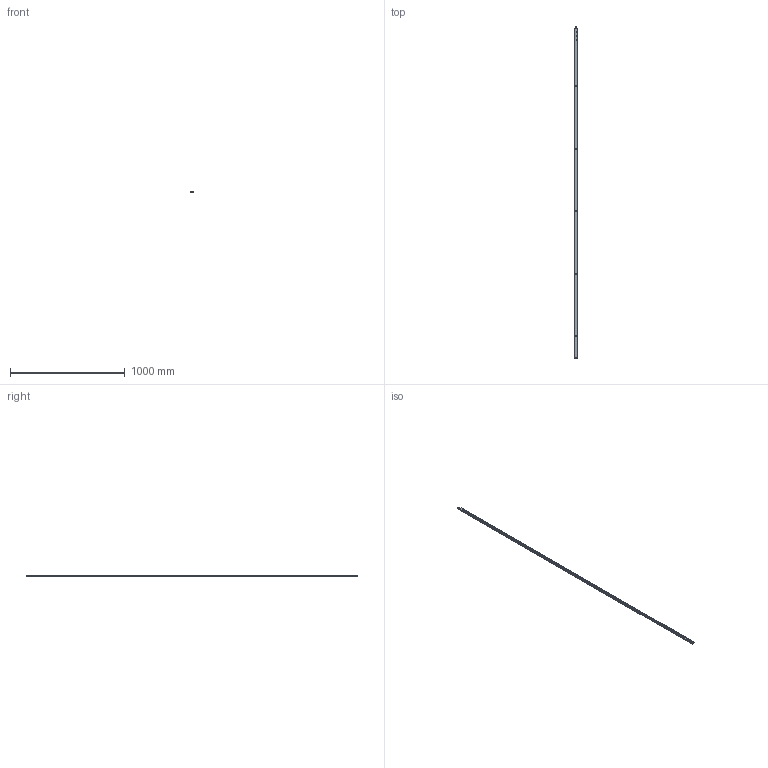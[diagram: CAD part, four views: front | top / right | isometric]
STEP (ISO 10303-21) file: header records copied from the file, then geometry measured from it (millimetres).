
FILE_DESCRIPTION (( 'STEP AP214' ), '1' );
FILE_NAME ('TPL-W-031-L.STEP', '2024-07-05T04:48:15', ( '' ), ( '' ), 'SwSTEP 2.0', 'SolidWorks 2023', '' );
FILE_SCHEMA (( 'AUTOMOTIVE_DESIGN' ));
Length unit declared in the file: millimetre
Products named in the file (4): Copy of LKC-544 Bolt 8mm square stainless steel TPLGen2^TPL-W-031 Rod + cover + bolt orientation A; Copy of LKC-531-A Rod TPLGen2 machined bolt end^TPL-W-031 Rod + cover + bolt orientation A_LKC-531-A-M003; COV-112-A Cover A suit TPLGen2 standard range_2870mm; TPL-W-031-L
Assembly tree (3 placements, depth 2):
  TPL-W-031-L
    Copy of LKC-544 Bolt 8mm square stainless steel TPLGen2^TPL-W-031 Rod + cover + bolt orientation A
    Copy of LKC-531-A Rod TPLGen2 machined bolt end^TPL-W-031 Rod + cover + bolt orientation A_LKC-531-A-M003
    COV-112-A Cover A suit TPLGen2 standard range_2870mm
Bounding box: 27 x 2895 x 10.8 mm (x, y, z)
Volume: 470507.1 mm3; surface area: 386934.9 mm2
Topology: 3 solids, 3 shells, 152 faces, 470 edges, 312 vertices
Faces by surface type: plane 73, cylinder 55, cone 22, sphere 2
Entity records: 5712 total; most frequent: CARTESIAN_POINT 1368, ORIENTED_EDGE 940, DIRECTION 863, EDGE_CURVE 470, VERTEX_POINT 312, AXIS2_PLACEMENT_3D 311, LINE 241, VECTOR 241
